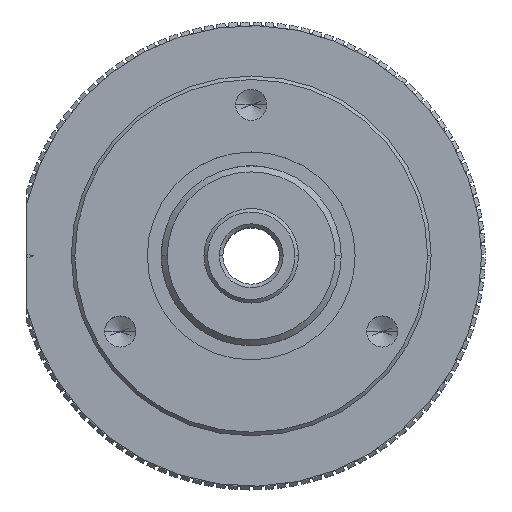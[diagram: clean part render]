
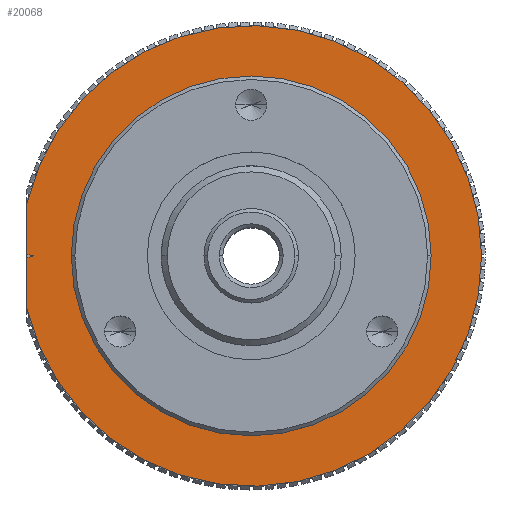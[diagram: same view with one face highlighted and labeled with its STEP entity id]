
A CAD part, top view. The second image highlights one B-rep face of the part: STEP entity #20068.
In plain terms, the highlighted planar face has unit normal (0, 0, 1).
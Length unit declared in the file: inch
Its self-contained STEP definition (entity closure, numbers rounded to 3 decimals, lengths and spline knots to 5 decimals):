
#714 = CARTESIAN_POINT ( 'NONE',  ( -0.935, -0.21731, -0.255 ) ) ;
#1246 = ORIENTED_EDGE ( 'NONE', *, *, #20546, .T. ) ;
#1259 = CARTESIAN_POINT ( 'NONE',  ( 0., 0., -0.255 ) ) ;
#1513 = EDGE_CURVE ( 'NONE', #13483, #19530, #8746, .T. ) ;
#1609 = VECTOR ( 'NONE', #11539, 39.37008 ) ;
#2548 = VECTOR ( 'NONE', #14443, 39.37008 ) ;
#3070 = DIRECTION ( 'NONE',  ( 1., 0., 0. ) ) ;
#3096 = EDGE_CURVE ( 'NONE', #9653, #12713, #12097, .T. ) ;
#3575 = CARTESIAN_POINT ( 'NONE',  ( 0.12674, 0.27699, -0.255 ) ) ;
#4196 = CARTESIAN_POINT ( 'NONE',  ( 0., 0., -0.255 ) ) ;
#4449 = AXIS2_PLACEMENT_3D ( 'NONE', #1259, #13814, #3070 ) ;
#4685 = CARTESIAN_POINT ( 'NONE',  ( -0.935, -0.0075, -0.255 ) ) ;
#5080 = CARTESIAN_POINT ( 'NONE',  ( -0.75, 0., -0.255 ) ) ;
#5996 = DIRECTION ( 'NONE',  ( 1., 0., 0. ) ) ;
#6223 = ORIENTED_EDGE ( 'NONE', *, *, #14460, .T. ) ;
#6294 = CARTESIAN_POINT ( 'NONE',  ( -0.935, 0.75, -0.255 ) ) ;
#6916 = EDGE_LOOP ( 'NONE', ( #6223, #9548, #14330, #1246, #16159 ) ) ;
#8607 = LINE ( 'NONE', #3575, #13384 ) ;
#8746 = CIRCLE ( 'NONE', #19093, 0.75 ) ;
#8760 = CARTESIAN_POINT ( 'NONE',  ( 0., 0.75, -0.255 ) ) ;
#8901 = FACE_OUTER_BOUND ( 'NONE', #6916, .T. ) ;
#8944 = DIRECTION ( 'NONE',  ( 0., 0., 1. ) ) ;
#9548 = ORIENTED_EDGE ( 'NONE', *, *, #12244, .T. ) ;
#9653 = VERTEX_POINT ( 'NONE', #19567 ) ;
#9732 = CARTESIAN_POINT ( 'NONE',  ( -0.935, 0.75, -0.255 ) ) ;
#10007 = CARTESIAN_POINT ( 'NONE',  ( -0.935, 0.21731, -0.255 ) ) ;
#10561 = DIRECTION ( 'NONE',  ( 0., 0., -1. ) ) ;
#10793 = VERTEX_POINT ( 'NONE', #714 ) ;
#10824 = ORIENTED_EDGE ( 'NONE', *, *, #1513, .F. ) ;
#11539 = DIRECTION ( 'NONE',  ( 0., -1., 0. ) ) ;
#12019 = VECTOR ( 'NONE', #18908, 39.37008 ) ;
#12097 = LINE ( 'NONE', #12660, #2548 ) ;
#12244 = EDGE_CURVE ( 'NONE', #12537, #9653, #16782, .T. ) ;
#12304 = PLANE ( 'NONE',  #20649 ) ;
#12537 = VERTEX_POINT ( 'NONE', #10007 ) ;
#12660 = CARTESIAN_POINT ( 'NONE',  ( -0.24826, -0.17651, -0.255 ) ) ;
#12713 = VERTEX_POINT ( 'NONE', #19594 ) ;
#13384 = VECTOR ( 'NONE', #14331, 39.37008 ) ;
#13483 = VERTEX_POINT ( 'NONE', #22315 ) ;
#13674 = FACE_BOUND ( 'NONE', #21178, .T. ) ;
#13814 = DIRECTION ( 'NONE',  ( 0., 0., 1. ) ) ;
#14330 = ORIENTED_EDGE ( 'NONE', *, *, #3096, .T. ) ;
#14331 = DIRECTION ( 'NONE',  ( -0.966, -0.259, 0. ) ) ;
#14443 = DIRECTION ( 'NONE',  ( 0.966, -0.259, 0. ) ) ;
#14460 = EDGE_CURVE ( 'NONE', #10793, #12537, #16182, .T. ) ;
#15908 = LINE ( 'NONE', #9732, #1609 ) ;
#16159 = ORIENTED_EDGE ( 'NONE', *, *, #19857, .T. ) ;
#16169 = CIRCLE ( 'NONE', #21859, 0.75 ) ;
#16182 = CIRCLE ( 'NONE', #4449, 0.95992 ) ;
#16605 = VERTEX_POINT ( 'NONE', #4685 ) ;
#16751 = DIRECTION ( 'NONE',  ( 0., 0., 1. ) ) ;
#16782 = LINE ( 'NONE', #6294, #12019 ) ;
#18908 = DIRECTION ( 'NONE',  ( 0., -1., 0. ) ) ;
#19093 = AXIS2_PLACEMENT_3D ( 'NONE', #19645, #8944, #21467 ) ;
#19530 = VERTEX_POINT ( 'NONE', #5080 ) ;
#19567 = CARTESIAN_POINT ( 'NONE',  ( -0.935, 0.0075, -0.255 ) ) ;
#19594 = CARTESIAN_POINT ( 'NONE',  ( -0.90701, 0., -0.255 ) ) ;
#19645 = CARTESIAN_POINT ( 'NONE',  ( 0., 0., -0.255 ) ) ;
#19857 = EDGE_CURVE ( 'NONE', #16605, #10793, #15908, .T. ) ;
#20068 = ADVANCED_FACE ( 'NONE', ( #13674, #8901 ), #12304, .F. ) ;
#20291 = EDGE_CURVE ( 'NONE', #19530, #13483, #16169, .T. ) ;
#20546 = EDGE_CURVE ( 'NONE', #12713, #16605, #8607, .T. ) ;
#20649 = AXIS2_PLACEMENT_3D ( 'NONE', #8760, #10561, #23081 ) ;
#21178 = EDGE_LOOP ( 'NONE', ( #10824, #23230 ) ) ;
#21467 = DIRECTION ( 'NONE',  ( 1., 0., 0. ) ) ;
#21859 = AXIS2_PLACEMENT_3D ( 'NONE', #4196, #16751, #5996 ) ;
#22315 = CARTESIAN_POINT ( 'NONE',  ( 0.75, 0., -0.255 ) ) ;
#23081 = DIRECTION ( 'NONE',  ( -1., 0., 0. ) ) ;
#23230 = ORIENTED_EDGE ( 'NONE', *, *, #20291, .F. ) ;
